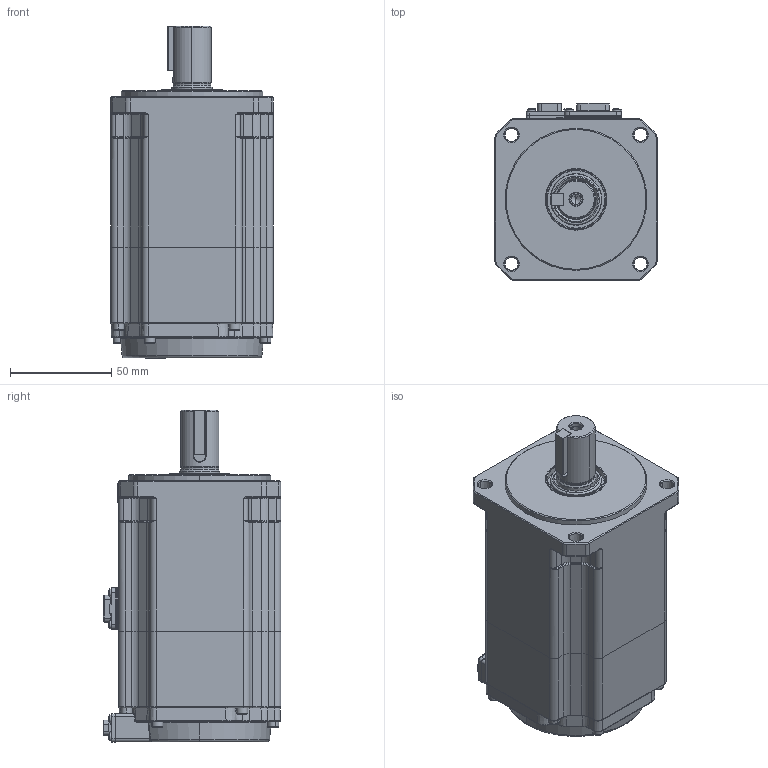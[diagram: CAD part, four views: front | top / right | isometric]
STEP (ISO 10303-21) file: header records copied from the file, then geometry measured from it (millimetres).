
FILE_DESCRIPTION (( 'STEP AP214' ), '1' );
FILE_NAME ('80-750W-衄蚐猾衄秶雄ん(RSK1-H080A08B30E).STEP', '2024-09-06T11:04:43', ( '' ), ( '' ), 'SwSTEP 2.0', 'SolidWorks 2020', '' );
FILE_SCHEMA (( 'AUTOMOTIVE_DESIGN' ));
Length unit declared in the file: millimetre
Products named in the file (12): 3111000003_内六角圆柱头螺钉_M3x10(GBT70.1-2000 锌镍合金 黑色 耐落 12.9级）; 3114000001_十字槽盘头自挤螺钉_M2x5(GBT6560-2014 锌镍合金 黑色); 3130000002_す瑩_B6x6x22(GBT1096-2003 湍れ瑩蹟謂M3); 80-750W-衄蚐猾衄秶雄ん(RSK1-H080A08B30E); 2181000003_綴裔_RSK1-H080A08B30S36; 2151000006_粣_RSK1-H080A08B30S36; 3111000005_内六角圆柱头螺钉_M3x45(GBT70.1-2000 锌镍合金 黑色 耐落 12.9级）; 2174000004_綴傷裔禱矗_RSK1-H080A08B30E36; 3231000003_勾板螺丝型6pin连接器插座_GAMC3063; 3220000002_蚐猾_TC20x30x4(NBR); 2142000004_儂褲禱矗_RSK1-H080A08B30S36; 苤萇儂晤鎢傷赽
Assembly tree (24 placements, depth 2):
  80-750W-衄蚐猾衄秶雄ん(RSK1-H080A08B30E)
    2142000004_儂褲禱矗_RSK1-H080A08B30S36
    2151000006_粣_RSK1-H080A08B30S36
    2174000004_綴傷裔禱矗_RSK1-H080A08B30E36
    2181000003_綴裔_RSK1-H080A08B30S36
    3111000005_内六角圆柱头螺钉_M3x45(GBT70.1-2000 锌镍合金 黑色 耐落 12.9级）  x4
    3114000001_十字槽盘头自挤螺钉_M2x5(GBT6560-2014 锌镍合金 黑色)  x8
    3130000002_す瑩_B6x6x22(GBT1096-2003 湍れ瑩蹟謂M3)
    3220000002_蚐猾_TC20x30x4(NBR)
    3231000003_勾板螺丝型6pin连接器插座_GAMC3063
    苤萇儂晤鎢傷赽
    3111000003_内六角圆柱头螺钉_M3x10(GBT70.1-2000 锌镍合金 黑色 耐落 12.9级）  x4
Bounding box: 80 x 87.6 x 163.8 mm (x, y, z)
Volume: 613054.9 mm3; surface area: 102535.3 mm2
Topology: 27 solids, 27 shells, 3038 faces, 7737 edges, 4851 vertices
Faces by surface type: plane 1437, cylinder 685, bspline 303, cone 287, torus 285, sphere 41
Entity records: 100430 total; most frequent: CARTESIAN_POINT 27433, ORIENTED_EDGE 13654, DIRECTION 12514, EDGE_CURVE 6827, VERTEX_POINT 4301, AXIS2_PLACEMENT_3D 4299, VECTOR 3916, LINE 3916
